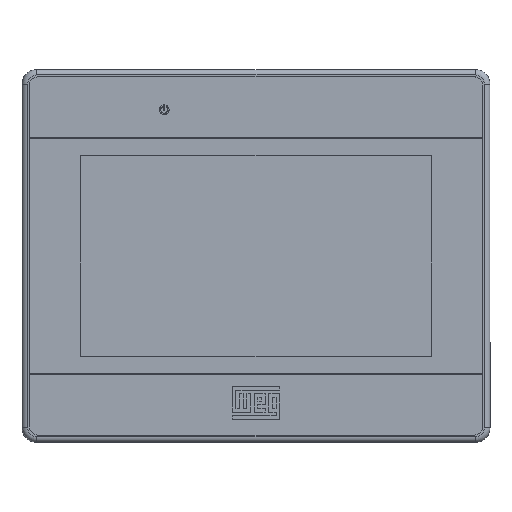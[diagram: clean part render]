
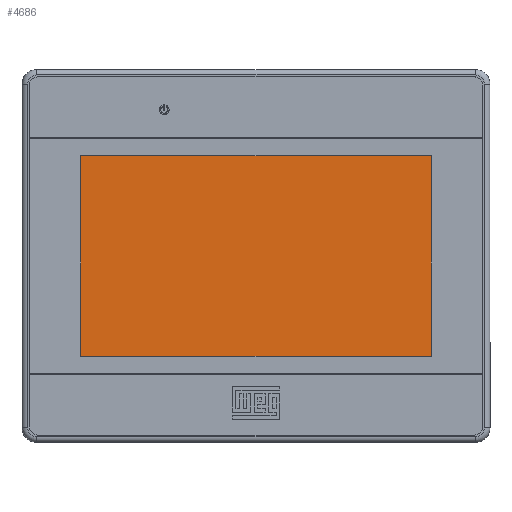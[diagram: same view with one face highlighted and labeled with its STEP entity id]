
A CAD part, top view. The second image highlights one B-rep face of the part: STEP entity #4686.
In plain terms, the highlighted planar face has unit normal (0, 0, 1).
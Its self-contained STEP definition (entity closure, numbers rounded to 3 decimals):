
#2 = CARTESIAN_POINT ( 'NONE',  ( -47.875, 27.45, 33.95 ) ) ;
#70 = VERTEX_POINT ( 'NONE', #4859 ) ;
#304 = VECTOR ( 'NONE', #4140, 1000. ) ;
#370 = CARTESIAN_POINT ( 'NONE',  ( -47.875, 27.45, 33.95 ) ) ;
#403 = AXIS2_PLACEMENT_3D ( 'NONE', #732, #3193, #4872 ) ;
#414 = CARTESIAN_POINT ( 'NONE',  ( -47.875, -27.45, 33.95 ) ) ;
#519 = VECTOR ( 'NONE', #2392, 1000. ) ;
#595 = FACE_OUTER_BOUND ( 'NONE', #4304, .T. ) ;
#732 = CARTESIAN_POINT ( 'NONE',  ( 0., 0., 33.95 ) ) ;
#1012 = EDGE_CURVE ( 'NONE', #70, #5396, #2627, .T. ) ;
#1280 = ORIENTED_EDGE ( 'NONE', *, *, #2324, .T. ) ;
#1373 = LINE ( 'NONE', #2, #304 ) ;
#1581 = VECTOR ( 'NONE', #2907, 1000. ) ;
#1665 = CARTESIAN_POINT ( 'NONE',  ( 47.875, -27.45, 33.95 ) ) ;
#1770 = ORIENTED_EDGE ( 'NONE', *, *, #5261, .T. ) ;
#1823 = VECTOR ( 'NONE', #2069, 1000. ) ;
#2069 = DIRECTION ( 'NONE',  ( 0., 1., 0. ) ) ;
#2324 = EDGE_CURVE ( 'NONE', #3571, #70, #5055, .T. ) ;
#2392 = DIRECTION ( 'NONE',  ( 1., 0., 0. ) ) ;
#2627 = LINE ( 'NONE', #5382, #1581 ) ;
#2786 = PLANE ( 'NONE',  #403 ) ;
#2907 = DIRECTION ( 'NONE',  ( -1., 0., 0. ) ) ;
#3069 = LINE ( 'NONE', #4915, #519 ) ;
#3154 = ORIENTED_EDGE ( 'NONE', *, *, #3289, .T. ) ;
#3193 = DIRECTION ( 'NONE',  ( 0., 0., 1. ) ) ;
#3198 = CARTESIAN_POINT ( 'NONE',  ( 47.875, -27.45, 33.95 ) ) ;
#3289 = EDGE_CURVE ( 'NONE', #5396, #3340, #1373, .T. ) ;
#3340 = VERTEX_POINT ( 'NONE', #414 ) ;
#3571 = VERTEX_POINT ( 'NONE', #1665 ) ;
#4020 = ORIENTED_EDGE ( 'NONE', *, *, #1012, .T. ) ;
#4140 = DIRECTION ( 'NONE',  ( 0., -1., 0. ) ) ;
#4304 = EDGE_LOOP ( 'NONE', ( #3154, #1770, #1280, #4020 ) ) ;
#4686 = ADVANCED_FACE ( 'NONE', ( #595 ), #2786, .T. ) ;
#4859 = CARTESIAN_POINT ( 'NONE',  ( 47.875, 27.45, 33.95 ) ) ;
#4872 = DIRECTION ( 'NONE',  ( 1., 0., 0. ) ) ;
#4915 = CARTESIAN_POINT ( 'NONE',  ( -47.875, -27.45, 33.95 ) ) ;
#5055 = LINE ( 'NONE', #3198, #1823 ) ;
#5261 = EDGE_CURVE ( 'NONE', #3340, #3571, #3069, .T. ) ;
#5382 = CARTESIAN_POINT ( 'NONE',  ( 47.875, 27.45, 33.95 ) ) ;
#5396 = VERTEX_POINT ( 'NONE', #370 ) ;
